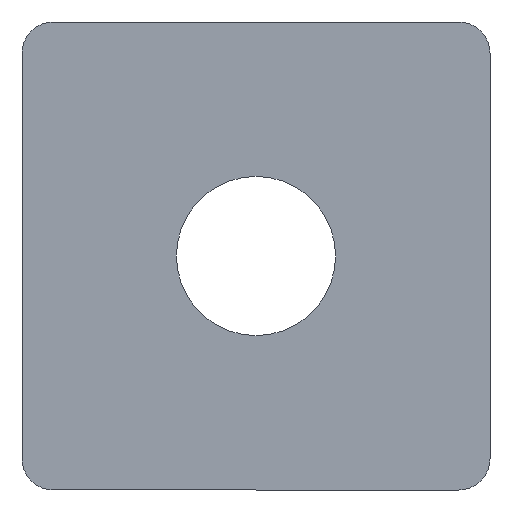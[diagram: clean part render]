
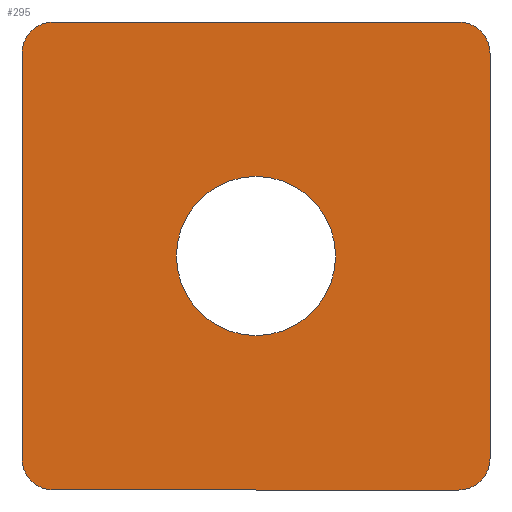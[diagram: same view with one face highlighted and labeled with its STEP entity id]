
A CAD part, front view. The second image highlights one B-rep face of the part: STEP entity #295.
In plain terms, the highlighted planar face has unit normal (0, -1, 0).
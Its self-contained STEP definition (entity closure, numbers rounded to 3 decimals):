
#11 = CARTESIAN_POINT ( 'NONE',  ( 13., 0., -13. ) ) ;
#23 = AXIS2_PLACEMENT_3D ( 'NONE', #1812, #87, #372 ) ;
#26 = CIRCLE ( 'NONE', #1218, 5.1 ) ;
#57 = EDGE_CURVE ( 'NONE', #1057, #777, #1043, .T. ) ;
#69 = VERTEX_POINT ( 'NONE', #798 ) ;
#82 = AXIS2_PLACEMENT_3D ( 'NONE', #1142, #337, #515 ) ;
#87 = DIRECTION ( 'NONE',  ( 0., -1., 0. ) ) ;
#88 = VECTOR ( 'NONE', #1631, 1000. ) ;
#103 = ORIENTED_EDGE ( 'NONE', *, *, #1616, .T. ) ;
#109 = VECTOR ( 'NONE', #1932, 1000. ) ;
#209 = CARTESIAN_POINT ( 'NONE',  ( 0., 0., 0. ) ) ;
#226 = VECTOR ( 'NONE', #1468, 1000. ) ;
#249 = CARTESIAN_POINT ( 'NONE',  ( 13., 0., -15. ) ) ;
#258 = ORIENTED_EDGE ( 'NONE', *, *, #1516, .T. ) ;
#291 = CIRCLE ( 'NONE', #1830, 2. ) ;
#295 = ADVANCED_FACE ( 'NONE', ( #691, #1500 ), #1169, .F. ) ;
#319 = EDGE_CURVE ( 'NONE', #1925, #1680, #1627, .T. ) ;
#334 = CARTESIAN_POINT ( 'NONE',  ( -15., 0., 15. ) ) ;
#337 = DIRECTION ( 'NONE',  ( 0., 1., 0. ) ) ;
#372 = DIRECTION ( 'NONE',  ( 0., 0., 1. ) ) ;
#400 = VERTEX_POINT ( 'NONE', #407 ) ;
#407 = CARTESIAN_POINT ( 'NONE',  ( -15., 0., 13. ) ) ;
#429 = EDGE_CURVE ( 'NONE', #1329, #1438, #26, .T. ) ;
#440 = LINE ( 'NONE', #787, #88 ) ;
#447 = DIRECTION ( 'NONE',  ( 0., -1., 0. ) ) ;
#473 = AXIS2_PLACEMENT_3D ( 'NONE', #209, #1318, #542 ) ;
#498 = CIRCLE ( 'NONE', #82, 5.1 ) ;
#515 = DIRECTION ( 'NONE',  ( 0., 0., 1. ) ) ;
#542 = DIRECTION ( 'NONE',  ( 0., 0., 1. ) ) ;
#557 = VERTEX_POINT ( 'NONE', #1232 ) ;
#590 = CARTESIAN_POINT ( 'NONE',  ( -13., 0., 13. ) ) ;
#610 = EDGE_CURVE ( 'NONE', #1438, #1329, #498, .T. ) ;
#626 = LINE ( 'NONE', #1936, #226 ) ;
#643 = ORIENTED_EDGE ( 'NONE', *, *, #734, .F. ) ;
#691 = FACE_BOUND ( 'NONE', #963, .T. ) ;
#710 = AXIS2_PLACEMENT_3D ( 'NONE', #11, #1110, #1296 ) ;
#732 = DIRECTION ( 'NONE',  ( 0., 0., 1. ) ) ;
#734 = EDGE_CURVE ( 'NONE', #69, #557, #626, .T. ) ;
#767 = CARTESIAN_POINT ( 'NONE',  ( -15., 0., -13. ) ) ;
#777 = VERTEX_POINT ( 'NONE', #858 ) ;
#787 = CARTESIAN_POINT ( 'NONE',  ( 15., 0., -15. ) ) ;
#798 = CARTESIAN_POINT ( 'NONE',  ( 15., 0., 13. ) ) ;
#799 = CIRCLE ( 'NONE', #710, 2. ) ;
#823 = ORIENTED_EDGE ( 'NONE', *, *, #1676, .F. ) ;
#858 = CARTESIAN_POINT ( 'NONE',  ( -13., 0., -15. ) ) ;
#877 = DIRECTION ( 'NONE',  ( 0., 1., 0. ) ) ;
#894 = VERTEX_POINT ( 'NONE', #249 ) ;
#963 = EDGE_LOOP ( 'NONE', ( #1748, #1617 ) ) ;
#1026 = ORIENTED_EDGE ( 'NONE', *, *, #57, .T. ) ;
#1041 = CARTESIAN_POINT ( 'NONE',  ( 0., 0., 0. ) ) ;
#1043 = CIRCLE ( 'NONE', #1159, 2. ) ;
#1057 = VERTEX_POINT ( 'NONE', #767 ) ;
#1109 = DIRECTION ( 'NONE',  ( 0., -1., 0. ) ) ;
#1110 = DIRECTION ( 'NONE',  ( 0., -1., 0. ) ) ;
#1126 = CARTESIAN_POINT ( 'NONE',  ( 13., 0., 15. ) ) ;
#1134 = EDGE_CURVE ( 'NONE', #894, #777, #440, .T. ) ;
#1142 = CARTESIAN_POINT ( 'NONE',  ( 0., 0., 0. ) ) ;
#1159 = AXIS2_PLACEMENT_3D ( 'NONE', #1591, #1109, #1586 ) ;
#1169 = PLANE ( 'NONE',  #473 ) ;
#1174 = CARTESIAN_POINT ( 'NONE',  ( -13., 0., 15. ) ) ;
#1185 = CARTESIAN_POINT ( 'NONE',  ( 0., 0., -5.1 ) ) ;
#1217 = CARTESIAN_POINT ( 'NONE',  ( 0., 0., 5.1 ) ) ;
#1218 = AXIS2_PLACEMENT_3D ( 'NONE', #1041, #877, #732 ) ;
#1232 = CARTESIAN_POINT ( 'NONE',  ( 15., 0., -13. ) ) ;
#1251 = VECTOR ( 'NONE', #1523, 1000. ) ;
#1296 = DIRECTION ( 'NONE',  ( 0., 0., 1. ) ) ;
#1318 = DIRECTION ( 'NONE',  ( 0., 1., 0. ) ) ;
#1329 = VERTEX_POINT ( 'NONE', #1185 ) ;
#1368 = ORIENTED_EDGE ( 'NONE', *, *, #1913, .T. ) ;
#1430 = ORIENTED_EDGE ( 'NONE', *, *, #1134, .F. ) ;
#1438 = VERTEX_POINT ( 'NONE', #1217 ) ;
#1468 = DIRECTION ( 'NONE',  ( 0., 0., -1. ) ) ;
#1500 = FACE_OUTER_BOUND ( 'NONE', #2048, .T. ) ;
#1515 = CIRCLE ( 'NONE', #23, 2. ) ;
#1516 = EDGE_CURVE ( 'NONE', #1925, #400, #291, .T. ) ;
#1523 = DIRECTION ( 'NONE',  ( 1., 0., 0. ) ) ;
#1586 = DIRECTION ( 'NONE',  ( 0., 0., 1. ) ) ;
#1591 = CARTESIAN_POINT ( 'NONE',  ( -13., 0., -13. ) ) ;
#1616 = EDGE_CURVE ( 'NONE', #894, #557, #799, .T. ) ;
#1617 = ORIENTED_EDGE ( 'NONE', *, *, #429, .T. ) ;
#1627 = LINE ( 'NONE', #1989, #1251 ) ;
#1631 = DIRECTION ( 'NONE',  ( -1., 0., 0. ) ) ;
#1676 = EDGE_CURVE ( 'NONE', #1057, #400, #2026, .T. ) ;
#1680 = VERTEX_POINT ( 'NONE', #1126 ) ;
#1748 = ORIENTED_EDGE ( 'NONE', *, *, #610, .T. ) ;
#1812 = CARTESIAN_POINT ( 'NONE',  ( 13., 0., 13. ) ) ;
#1830 = AXIS2_PLACEMENT_3D ( 'NONE', #590, #447, #1897 ) ;
#1897 = DIRECTION ( 'NONE',  ( 0., 0., 1. ) ) ;
#1913 = EDGE_CURVE ( 'NONE', #69, #1680, #1515, .T. ) ;
#1925 = VERTEX_POINT ( 'NONE', #1174 ) ;
#1932 = DIRECTION ( 'NONE',  ( 0., 0., 1. ) ) ;
#1936 = CARTESIAN_POINT ( 'NONE',  ( 15., 0., 15. ) ) ;
#1941 = ORIENTED_EDGE ( 'NONE', *, *, #319, .F. ) ;
#1989 = CARTESIAN_POINT ( 'NONE',  ( 15., 0., 15. ) ) ;
#2026 = LINE ( 'NONE', #334, #109 ) ;
#2048 = EDGE_LOOP ( 'NONE', ( #1430, #103, #643, #1368, #1941, #258, #823, #1026 ) ) ;
